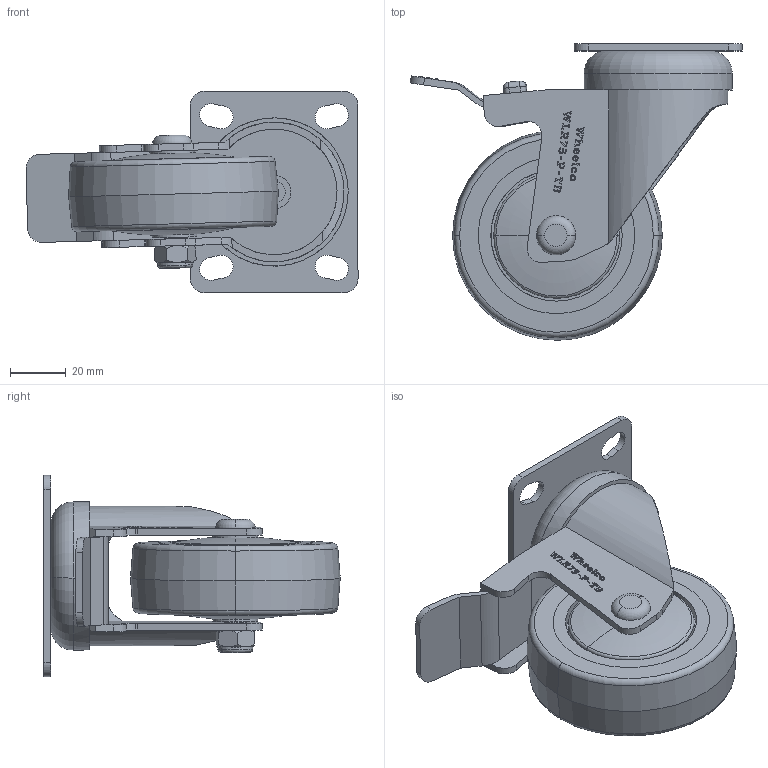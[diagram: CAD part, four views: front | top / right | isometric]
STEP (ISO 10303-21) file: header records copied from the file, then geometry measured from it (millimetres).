
FILE_DESCRIPTION (( 'STEP AP214' ), '1' );
FILE_NAME ('WLR75-P-TB.step', '2024-01-15T01:50:09', ( '' ), ( '' ), 'SwSTEP 2.0', 'SolidWorks 2022', '' );
FILE_SCHEMA (( 'AUTOMOTIVE_DESIGN' ));
Length unit declared in the file: millimetre
Products named in the file (6): M8Nyloc; WL bolt 50mm-8mm dia; WLR75-P-TB; WLR75; WLR75-P-TB FRAME; 72x60
Assembly tree (5 placements, depth 2):
  WLR75-P-TB
    WLR75-P-TB FRAME
    WL bolt 50mm-8mm dia
    M8Nyloc
    WLR75
    72x60
Bounding box: 118.71 x 106 x 72 mm (x, y, z)
Volume: 174975.4 mm3; surface area: 52028.6 mm2
Topology: 5 solids, 5 shells, 595 faces, 1598 edges, 1047 vertices
Faces by surface type: plane 306, cylinder 140, bspline 106, torus 18, cone 18, sphere 7
Entity records: 27269 total; most frequent: CARTESIAN_POINT 12665, ORIENTED_EDGE 3184, DIRECTION 2485, EDGE_CURVE 1592, VERTEX_POINT 1045, VECTOR 1009, LINE 1009, AXIS2_PLACEMENT_3D 738
